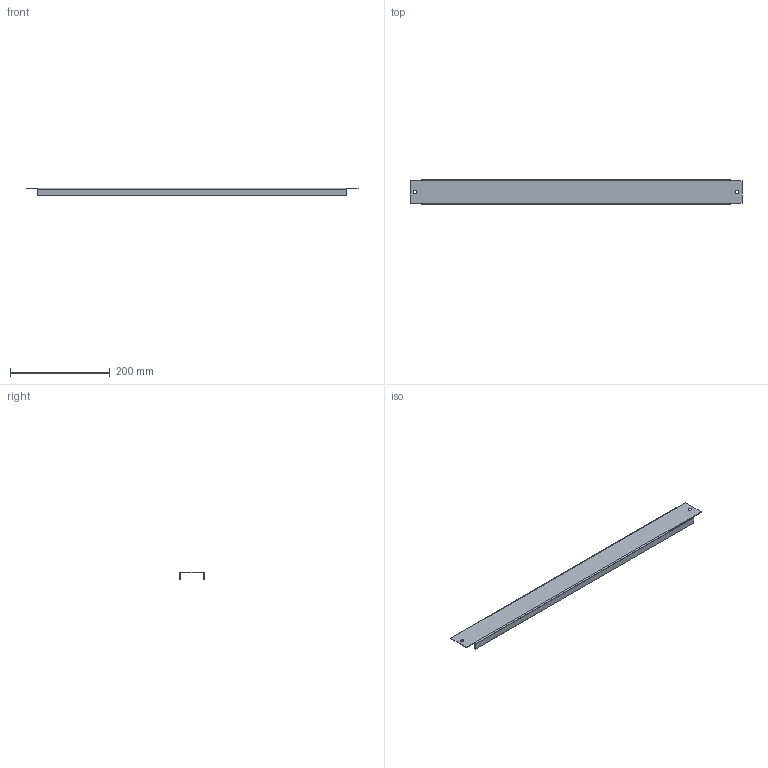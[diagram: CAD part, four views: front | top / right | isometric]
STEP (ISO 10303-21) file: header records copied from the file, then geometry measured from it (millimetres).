
FILE_DESCRIPTION (( 'STEP AP203' ), '1' );
FILE_NAME ('MB 05.70 Ïàíåëü ìîäóëüíàÿ.STEP', '2012-11-21T07:08:23', ( 'system' ), ( '' ), 'SwSTEP 2.0', 'SolidWorks 2012', '' );
FILE_SCHEMA (( 'CONFIG_CONTROL_DESIGN' ));
Length unit declared in the file: millimetre
Products named in the file (1): MB 05.70 Ïàíåëü ìîäóëüíàÿ
Bounding box: 665 x 49 x 15 mm (x, y, z)
Volume: 58098.2 mm3; surface area: 98659.3 mm2
Topology: 1 solids, 1 shells, 30 faces, 68 edges, 40 vertices
Faces by surface type: plane 22, cylinder 8
Entity records: 905 total; most frequent: DIRECTION 146, CARTESIAN_POINT 139, ORIENTED_EDGE 136, EDGE_CURVE 68, VECTOR 52, LINE 52, AXIS2_PLACEMENT_3D 47, VERTEX_POINT 40
